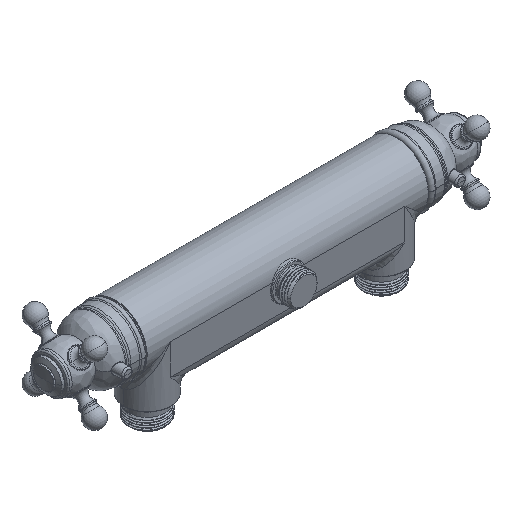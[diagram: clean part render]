
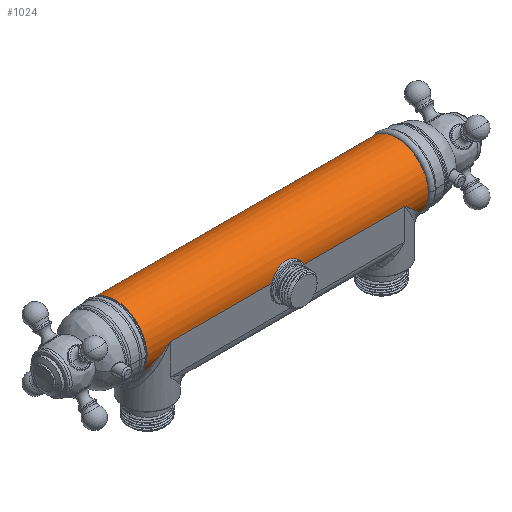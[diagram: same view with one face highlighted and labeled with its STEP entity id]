
A CAD part, isometric view. The second image highlights one B-rep face of the part: STEP entity #1024.
In plain terms, the highlighted cylindrical face has radius 21.75 mm (diameter 43.5 mm), a partial arc.
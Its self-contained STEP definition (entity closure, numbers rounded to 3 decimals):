
#1=CARTESIAN_POINT('',(96.,0.,0.));
#2=DIRECTION('',(-1.,0.,0.));
#3=DIRECTION('',(0.,-0.775,-0.632));
#4=AXIS2_PLACEMENT_3D('',#1,#2,#3);
#267=CARTESIAN_POINT('',(96.,-16.85,-13.753));
#268=CARTESIAN_POINT('',(95.587,-17.152,-13.382));
#269=CARTESIAN_POINT('',(94.708,-17.752,-12.599));
#270=CARTESIAN_POINT('',(93.19,-18.629,-11.264));
#271=CARTESIAN_POINT('',(91.584,-19.405,-9.867));
#272=CARTESIAN_POINT('',(89.948,-20.058,-8.456));
#273=CARTESIAN_POINT('',(88.328,-20.587,-7.068));
#274=CARTESIAN_POINT('',(86.669,-21.021,-5.652));
#275=CARTESIAN_POINT('',(84.82,-21.386,-4.08));
#276=CARTESIAN_POINT('',(82.677,-21.663,-2.264));
#277=CARTESIAN_POINT('',(80.937,-21.75,
-0.792));
#278=CARTESIAN_POINT('',(80.,-21.75,0.));
#280=DIRECTION('',(-1.,0.,0.));
#281=VECTOR('',#280,69.038);
#282=CARTESIAN_POINT('',(80.,-21.75,0.));
#283=LINE('',#282,#281);
#284=CARTESIAN_POINT('',(10.962,-21.75,0.));
#285=CARTESIAN_POINT('',(10.67,-21.75,0.712));
#286=CARTESIAN_POINT('',(9.959,-21.681,2.056));
#287=CARTESIAN_POINT('',(8.519,-21.43,3.844));
#288=CARTESIAN_POINT('',(6.73,-21.097,5.347));
#289=CARTESIAN_POINT('',(4.647,-20.767,6.489));
#290=CARTESIAN_POINT('',(2.346,-20.527,7.196));
#291=CARTESIAN_POINT('',(0.792,-20.47,7.35));
#292=CARTESIAN_POINT('',(0.,-20.47,7.35));
#294=CARTESIAN_POINT('',(0.,-20.47,7.35));
#295=CARTESIAN_POINT('',(-0.792,-20.47,7.35));
#296=CARTESIAN_POINT('',(-2.346,-20.527,7.196));
#297=CARTESIAN_POINT('',(-4.647,-20.767,6.489));
#298=CARTESIAN_POINT('',(-6.73,-21.097,5.347));
#299=CARTESIAN_POINT('',(-8.519,-21.429,3.845));
#300=CARTESIAN_POINT('',(-9.958,-21.681,2.056));
#301=CARTESIAN_POINT('',(-10.67,-21.75,0.712));
#302=CARTESIAN_POINT('',(-10.962,-21.75,0.));
#304=DIRECTION('',(-1.,0.,0.));
#305=VECTOR('',#304,69.038);
#306=CARTESIAN_POINT('',(-10.962,-21.75,0.));
#307=LINE('',#306,#305);
#308=CARTESIAN_POINT('',(-80.,-21.75,0.));
#309=CARTESIAN_POINT('',(-80.918,-21.75,
-0.776));
#310=CARTESIAN_POINT('',(-82.635,-21.666,
-2.229));
#311=CARTESIAN_POINT('',(-84.801,-21.39,
-4.064));
#312=CARTESIAN_POINT('',(-86.696,-21.016,
-5.675));
#313=CARTESIAN_POINT('',(-88.403,-20.566,
-7.132));
#314=CARTESIAN_POINT('',(-90.043,-20.023,
-8.538));
#315=CARTESIAN_POINT('',(-91.66,-19.37,
-9.934));
#316=CARTESIAN_POINT('',(-93.231,-18.606,
-11.3));
#317=CARTESIAN_POINT('',(-94.718,-17.745,
-12.608));
#318=CARTESIAN_POINT('',(-95.589,-17.151,
-13.384));
#319=CARTESIAN_POINT('',(-96.,-16.85,-13.753));
#321=CARTESIAN_POINT('',(-96.,8.151,-20.165));
#322=CARTESIAN_POINT('',(-95.007,8.879,-19.87));
#323=CARTESIAN_POINT('',(-92.925,10.152,-19.268));
#324=CARTESIAN_POINT('',(-89.33,11.647,-18.387));
#325=CARTESIAN_POINT('',(-85.877,12.538,-17.777));
#326=CARTESIAN_POINT('',(-82.671,12.986,-17.449));
#327=CARTESIAN_POINT('',(-79.612,13.098,-17.364));
#328=CARTESIAN_POINT('',(-76.535,12.906,-17.508));
#329=CARTESIAN_POINT('',(-73.291,12.366,-17.901));
#330=CARTESIAN_POINT('',(-69.795,11.333,-18.584));
#331=CARTESIAN_POINT('',(-67.57,10.327,-19.154));
#332=CARTESIAN_POINT('',(-66.47,9.721,-19.457));
#334=DIRECTION('',(1.,0.,0.));
#335=VECTOR('',#334,132.939);
#336=CARTESIAN_POINT('',(-66.47,9.721,-19.457));
#337=LINE('',#336,#335);
#338=CARTESIAN_POINT('',(66.47,9.721,-19.457));
#339=CARTESIAN_POINT('',(67.57,10.327,-19.154));
#340=CARTESIAN_POINT('',(69.795,11.333,-18.584));
#341=CARTESIAN_POINT('',(73.291,12.366,-17.901));
#342=CARTESIAN_POINT('',(76.535,12.906,-17.508));
#343=CARTESIAN_POINT('',(79.612,13.098,-17.364));
#344=CARTESIAN_POINT('',(82.671,12.986,-17.449));
#345=CARTESIAN_POINT('',(85.877,12.538,-17.777));
#346=CARTESIAN_POINT('',(89.33,11.647,-18.387));
#347=CARTESIAN_POINT('',(92.925,10.152,-19.268));
#348=CARTESIAN_POINT('',(95.007,8.879,-19.87));
#349=CARTESIAN_POINT('',(96.,8.151,-20.165));
#635=CARTESIAN_POINT('',(-96.,0.,0.));
#636=DIRECTION('',(1.,0.,0.));
#637=DIRECTION('',(0.,0.375,-0.927));
#638=AXIS2_PLACEMENT_3D('',#635,#636,#637);
#808=CARTESIAN_POINT('',(80.,-21.75,0.));
#809=VERTEX_POINT('',#808);
#810=CARTESIAN_POINT('',(-80.,-21.75,0.));
#811=VERTEX_POINT('',#810);
#812=CARTESIAN_POINT('',(-66.47,9.721,-19.457));
#813=CARTESIAN_POINT('',(66.47,9.721,-19.457));
#814=VERTEX_POINT('',#812);
#815=VERTEX_POINT('',#813);
#816=CARTESIAN_POINT('',(96.,-16.85,-13.753));
#817=CARTESIAN_POINT('',(96.,8.151,-20.165));
#818=VERTEX_POINT('',#816);
#819=VERTEX_POINT('',#817);
#822=VERTEX_POINT('',#294);
#823=VERTEX_POINT('',#302);
#824=VERTEX_POINT('',#284);
#826=VERTEX_POINT('',#319);
#827=VERTEX_POINT('',#321);
#996=CARTESIAN_POINT('',(-97.5,0.,0.));
#997=DIRECTION('',(1.,0.,0.));
#998=DIRECTION('',(0.,0.,1.));
#999=AXIS2_PLACEMENT_3D('',#996,#997,#998);
#1000=CYLINDRICAL_SURFACE('',#999,21.75);
#1001=ORIENTED_EDGE('',*,*,#873,.F.);
#1003=ORIENTED_EDGE('',*,*,#1002,.T.);
#1005=ORIENTED_EDGE('',*,*,#1004,.T.);
#1007=ORIENTED_EDGE('',*,*,#1006,.T.);
#1009=ORIENTED_EDGE('',*,*,#1008,.T.);
#1011=ORIENTED_EDGE('',*,*,#1010,.T.);
#1013=ORIENTED_EDGE('',*,*,#1012,.T.);
#1015=ORIENTED_EDGE('',*,*,#1014,.F.);
#1017=ORIENTED_EDGE('',*,*,#1016,.T.);
#1019=ORIENTED_EDGE('',*,*,#1018,.T.);
#1021=ORIENTED_EDGE('',*,*,#1020,.T.);
#1022=EDGE_LOOP('',(#1001,#1003,#1005,#1007,#1009,#1011,#1013,#1015,#1017,#1019,
#1021));
#1023=FACE_OUTER_BOUND('',#1022,.F.);
#1024=ADVANCED_FACE('',(#1023),#1000,.T.);
#5=CIRCLE('',#4,21.75);
#279=B_SPLINE_CURVE_WITH_KNOTS('',3,(#267,#268,#269,#270,#271,#272,#273,#274,
#275,#276,#277,#278),.UNSPECIFIED.,.F.,.F.,(4,1,1,1,1,1,1,1,1,4),(0.,
0.111,0.222,0.333,0.444,
0.556,0.667,0.778,0.889,1.),
.UNSPECIFIED.);
#293=B_SPLINE_CURVE_WITH_KNOTS('',3,(#284,#285,#286,#287,#288,#289,#290,#291,
#292),.UNSPECIFIED.,.F.,.F.,(4,1,1,1,1,1,4),(0.,0.167,
0.333,0.5,0.667,0.833,1.),
.UNSPECIFIED.);
#303=B_SPLINE_CURVE_WITH_KNOTS('',3,(#294,#295,#296,#297,#298,#299,#300,#301,
#302),.UNSPECIFIED.,.F.,.F.,(4,1,1,1,1,1,4),(0.,0.167,
0.333,0.5,0.667,0.833,1.),
.UNSPECIFIED.);
#320=B_SPLINE_CURVE_WITH_KNOTS('',3,(#308,#309,#310,#311,#312,#313,#314,#315,
#316,#317,#318,#319),.UNSPECIFIED.,.F.,.F.,(4,1,1,1,1,1,1,1,1,4),(0.,
0.111,0.222,0.333,0.444,
0.556,0.667,0.778,0.889,1.),
.UNSPECIFIED.);
#333=B_SPLINE_CURVE_WITH_KNOTS('',3,(#321,#322,#323,#324,#325,#326,#327,#328,
#329,#330,#331,#332),.UNSPECIFIED.,.F.,.F.,(4,1,1,1,1,1,1,1,1,4),(0.,
0.111,0.222,0.333,0.444,
0.556,0.667,0.778,0.889,1.),
.UNSPECIFIED.);
#350=B_SPLINE_CURVE_WITH_KNOTS('',3,(#338,#339,#340,#341,#342,#343,#344,#345,
#346,#347,#348,#349),.UNSPECIFIED.,.F.,.F.,(4,1,1,1,1,1,1,1,1,4),(0.,
0.111,0.222,0.333,0.444,
0.556,0.667,0.778,0.889,1.),
.UNSPECIFIED.);
#639=CIRCLE('',#638,21.75);
#873=EDGE_CURVE('',#818,#819,#5,.T.);
#1002=EDGE_CURVE('',#818,#809,#279,.T.);
#1004=EDGE_CURVE('',#809,#824,#283,.T.);
#1006=EDGE_CURVE('',#824,#822,#293,.T.);
#1008=EDGE_CURVE('',#822,#823,#303,.T.);
#1010=EDGE_CURVE('',#823,#811,#307,.T.);
#1012=EDGE_CURVE('',#811,#826,#320,.T.);
#1014=EDGE_CURVE('',#827,#826,#639,.T.);
#1016=EDGE_CURVE('',#827,#814,#333,.T.);
#1018=EDGE_CURVE('',#814,#815,#337,.T.);
#1020=EDGE_CURVE('',#815,#819,#350,.T.);
